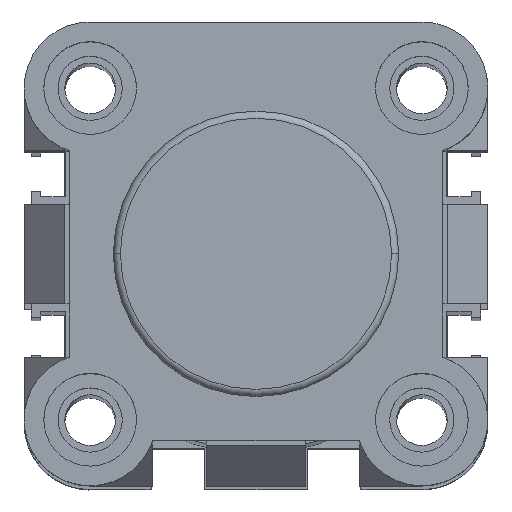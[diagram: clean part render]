
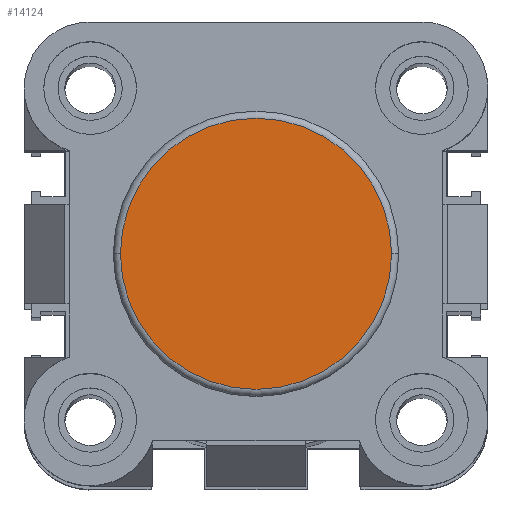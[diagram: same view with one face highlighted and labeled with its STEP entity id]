
A CAD part, top view. The second image highlights one B-rep face of the part: STEP entity #14124.
In plain terms, the highlighted planar face has unit normal (0, 0, 1).
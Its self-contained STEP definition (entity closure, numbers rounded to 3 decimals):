
#2883 = VERTEX_POINT ( 'NONE', #6809 ) ;
#3961 = CARTESIAN_POINT ( 'NONE',  ( 32.5, 32.5, 34. ) ) ;
#4023 = DIRECTION ( 'NONE',  ( 1., 0., 0. ) ) ;
#4918 = AXIS2_PLACEMENT_3D ( 'NONE', #12734, #12828, #18322 ) ;
#5704 = CIRCLE ( 'NONE', #18683, 19. ) ;
#6079 = PLANE ( 'NONE',  #20961 ) ;
#6809 = CARTESIAN_POINT ( 'NONE',  ( 13.5, 32.5, 34. ) ) ;
#7314 = EDGE_LOOP ( 'NONE', ( #21010, #9891 ) ) ;
#9891 = ORIENTED_EDGE ( 'NONE', *, *, #16868, .T. ) ;
#12734 = CARTESIAN_POINT ( 'NONE',  ( 32.5, 32.5, 34. ) ) ;
#12828 = DIRECTION ( 'NONE',  ( 0., 0., 1. ) ) ;
#13029 = DIRECTION ( 'NONE',  ( 0., 0., 1. ) ) ;
#14124 = ADVANCED_FACE ( 'NONE', ( #16891 ), #6079, .T. ) ;
#14187 = VERTEX_POINT ( 'NONE', #19799 ) ;
#14724 = CIRCLE ( 'NONE', #4918, 19. ) ;
#16868 = EDGE_CURVE ( 'NONE', #2883, #14187, #5704, .T. ) ;
#16891 = FACE_OUTER_BOUND ( 'NONE', #7314, .T. ) ;
#18322 = DIRECTION ( 'NONE',  ( 1., 0., 0. ) ) ;
#18683 = AXIS2_PLACEMENT_3D ( 'NONE', #20563, #13029, #24450 ) ;
#19799 = CARTESIAN_POINT ( 'NONE',  ( 51.5, 32.5, 34. ) ) ;
#20429 = EDGE_CURVE ( 'NONE', #14187, #2883, #14724, .T. ) ;
#20563 = CARTESIAN_POINT ( 'NONE',  ( 32.5, 32.5, 34. ) ) ;
#20961 = AXIS2_PLACEMENT_3D ( 'NONE', #3961, #21329, #4023 ) ;
#21010 = ORIENTED_EDGE ( 'NONE', *, *, #20429, .T. ) ;
#21329 = DIRECTION ( 'NONE',  ( 0., 0., 1. ) ) ;
#24450 = DIRECTION ( 'NONE',  ( 1., 0., 0. ) ) ;
